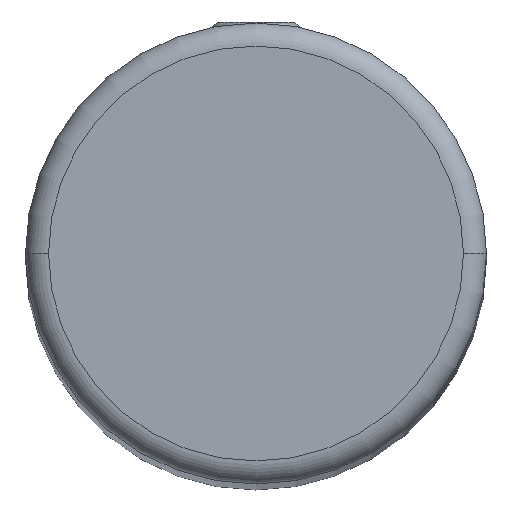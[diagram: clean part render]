
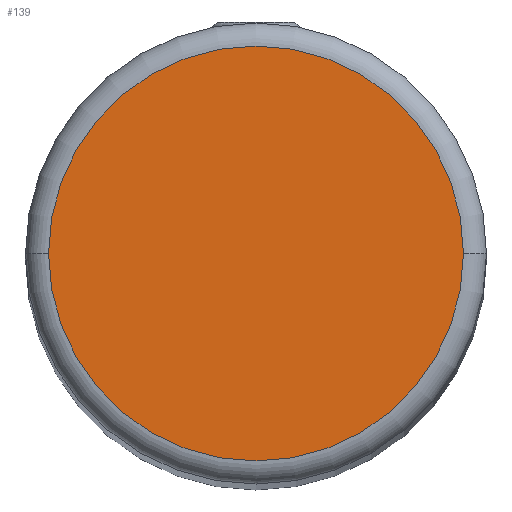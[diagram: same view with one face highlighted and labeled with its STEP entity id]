
A CAD part, top view. The second image highlights one B-rep face of the part: STEP entity #139.
In plain terms, the highlighted planar face has unit normal (0, 0, 1).
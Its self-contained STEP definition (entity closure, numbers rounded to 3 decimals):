
#27 = EDGE_CURVE ( 'NONE', #329, #333, #68, .T. ) ;
#29 = EDGE_CURVE ( 'NONE', #333, #329, #72, .T. ) ;
#34 = AXIS2_PLACEMENT_3D ( 'NONE', #239, #316, #226 ) ;
#40 = AXIS2_PLACEMENT_3D ( 'NONE', #206, #216, #229 ) ;
#47 = AXIS2_PLACEMENT_3D ( 'NONE', #258, #238, #233 ) ;
#68 = CIRCLE ( 'NONE', #40, 1.8 ) ;
#72 = CIRCLE ( 'NONE', #34, 1.8 ) ;
#120 = FACE_OUTER_BOUND ( 'NONE', #367, .T. ) ;
#139 = ADVANCED_FACE ( 'NONE', ( #120 ), #249, .T. ) ;
#206 = CARTESIAN_POINT ( 'NONE',  ( 0., 0., 15. ) ) ;
#216 = DIRECTION ( 'NONE',  ( 0., 0., 1. ) ) ;
#226 = DIRECTION ( 'NONE',  ( 1., 0., 0. ) ) ;
#229 = DIRECTION ( 'NONE',  ( 1., 0., 0. ) ) ;
#233 = DIRECTION ( 'NONE',  ( 1., 0., 0. ) ) ;
#238 = DIRECTION ( 'NONE',  ( 0., 0., 1. ) ) ;
#239 = CARTESIAN_POINT ( 'NONE',  ( 0., 0., 15. ) ) ;
#249 = PLANE ( 'NONE',  #47 ) ;
#258 = CARTESIAN_POINT ( 'NONE',  ( 0., 0., 15. ) ) ;
#316 = DIRECTION ( 'NONE',  ( 0., 0., 1. ) ) ;
#326 = ORIENTED_EDGE ( 'NONE', *, *, #29, .T. ) ;
#329 = VERTEX_POINT ( 'NONE', #386 ) ;
#333 = VERTEX_POINT ( 'NONE', #393 ) ;
#334 = ORIENTED_EDGE ( 'NONE', *, *, #27, .T. ) ;
#367 = EDGE_LOOP ( 'NONE', ( #326, #334 ) ) ;
#386 = CARTESIAN_POINT ( 'NONE',  ( -1.8, 0., 15. ) ) ;
#393 = CARTESIAN_POINT ( 'NONE',  ( 1.8, 0., 15. ) ) ;
